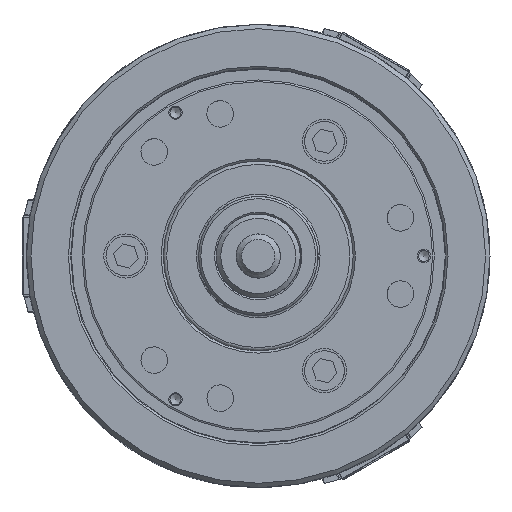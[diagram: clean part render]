
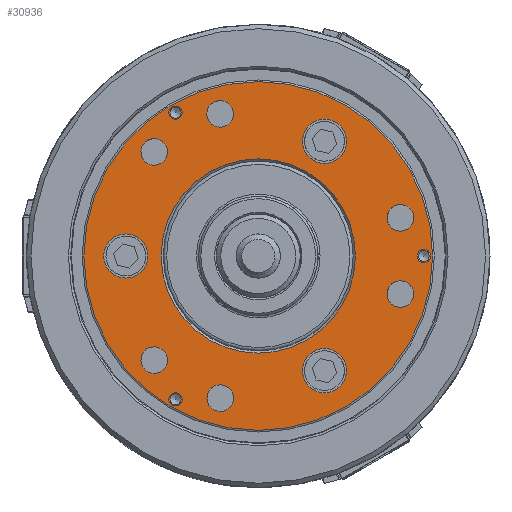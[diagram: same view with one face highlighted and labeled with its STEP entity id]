
A CAD part, left-side view. The second image highlights one B-rep face of the part: STEP entity #30936.
In plain terms, the highlighted planar face has unit normal (-1, 0, 0).
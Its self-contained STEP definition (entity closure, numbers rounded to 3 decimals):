
#410 = EDGE_LOOP ( 'NONE', ( #17236 ) ) ;
#1022 = ORIENTED_EDGE ( 'NONE', *, *, #2902, .F. ) ;
#1106 = AXIS2_PLACEMENT_3D ( 'NONE', #41544, #8044, #22119 ) ;
#1213 = CARTESIAN_POINT ( 'NONE',  ( -80., 47.146, 47.146 ) ) ;
#2211 = DIRECTION ( 'NONE',  ( 0., 0., -1. ) ) ;
#2420 = ORIENTED_EDGE ( 'NONE', *, *, #59169, .F. ) ;
#2460 = AXIS2_PLACEMENT_3D ( 'NONE', #10557, #58827, #21653 ) ;
#2715 = VERTEX_POINT ( 'NONE', #30923 ) ;
#2755 = EDGE_LOOP ( 'NONE', ( #6028 ) ) ;
#2853 = AXIS2_PLACEMENT_3D ( 'NONE', #8497, #42215, #13369 ) ;
#2902 = EDGE_CURVE ( 'NONE', #2715, #2715, #53491, .T. ) ;
#4591 = EDGE_CURVE ( 'NONE', #12561, #12561, #22260, .T. ) ;
#4694 = FACE_BOUND ( 'NONE', #27465, .T. ) ;
#5206 = EDGE_CURVE ( 'NONE', #38937, #38937, #42546, .T. ) ;
#5879 = DIRECTION ( 'NONE',  ( 0., 0., 1. ) ) ;
#6028 = ORIENTED_EDGE ( 'NONE', *, *, #39347, .T. ) ;
#7289 = VERTEX_POINT ( 'NONE', #42303 ) ;
#7555 = CARTESIAN_POINT ( 'NONE',  ( -80., -64.403, 11.257 ) ) ;
#8044 = DIRECTION ( 'NONE',  ( -1., 0., 0. ) ) ;
#8425 = CIRCLE ( 'NONE', #2460, 10. ) ;
#8463 = FACE_BOUND ( 'NONE', #21525, .T. ) ;
#8497 = CARTESIAN_POINT ( 'NONE',  ( -80., 17.257, 64.403 ) ) ;
#8733 = VERTEX_POINT ( 'NONE', #11373 ) ;
#8815 = VERTEX_POINT ( 'NONE', #57093 ) ;
#10019 = DIRECTION ( 'NONE',  ( -1., 0., 0. ) ) ;
#10557 = CARTESIAN_POINT ( 'NONE',  ( -80., -30., -51.962 ) ) ;
#11373 = CARTESIAN_POINT ( 'NONE',  ( -80., 47.146, 41.146 ) ) ;
#11406 = CARTESIAN_POINT ( 'NONE',  ( -80., 79., 0. ) ) ;
#11605 = PLANE ( 'NONE',  #55214 ) ;
#11824 = VERTEX_POINT ( 'NONE', #44841 ) ;
#12178 = CIRCLE ( 'NONE', #56968, 79. ) ;
#12471 = AXIS2_PLACEMENT_3D ( 'NONE', #1213, #15799, #16401 ) ;
#12561 = VERTEX_POINT ( 'NONE', #16007 ) ;
#12578 = EDGE_CURVE ( 'NONE', #11824, #11824, #57504, .T. ) ;
#13015 = FACE_OUTER_BOUND ( 'NONE', #44706, .T. ) ;
#13276 = VERTEX_POINT ( 'NONE', #36819 ) ;
#13369 = DIRECTION ( 'NONE',  ( 0., 0., -1. ) ) ;
#13585 = AXIS2_PLACEMENT_3D ( 'NONE', #34529, #15371, #44205 ) ;
#14322 = ORIENTED_EDGE ( 'NONE', *, *, #5206, .F. ) ;
#14415 = AXIS2_PLACEMENT_3D ( 'NONE', #53431, #10019, #43713 ) ;
#14565 = ORIENTED_EDGE ( 'NONE', *, *, #50056, .T. ) ;
#14798 = VERTEX_POINT ( 'NONE', #7555 ) ;
#14835 = EDGE_LOOP ( 'NONE', ( #17020 ) ) ;
#15038 = CIRCLE ( 'NONE', #62429, 6. ) ;
#15371 = DIRECTION ( 'NONE',  ( -1., 0., 0. ) ) ;
#15512 = VERTEX_POINT ( 'NONE', #28157 ) ;
#15799 = DIRECTION ( 'NONE',  ( 1., 0., 0. ) ) ;
#16007 = CARTESIAN_POINT ( 'NONE',  ( -80., -75., 3. ) ) ;
#16205 = EDGE_CURVE ( 'NONE', #8733, #8733, #36024, .T. ) ;
#16401 = DIRECTION ( 'NONE',  ( 0., 0., -1. ) ) ;
#17020 = ORIENTED_EDGE ( 'NONE', *, *, #4591, .F. ) ;
#17236 = ORIENTED_EDGE ( 'NONE', *, *, #34273, .T. ) ;
#17291 = AXIS2_PLACEMENT_3D ( 'NONE', #45202, #40764, #2211 ) ;
#18286 = AXIS2_PLACEMENT_3D ( 'NONE', #58505, #39068, #54029 ) ;
#18322 = FACE_BOUND ( 'NONE', #2755, .T. ) ;
#18607 = VERTEX_POINT ( 'NONE', #42096 ) ;
#18883 = AXIS2_PLACEMENT_3D ( 'NONE', #37192, #56651, #22873 ) ;
#19057 = FACE_BOUND ( 'NONE', #58098, .T. ) ;
#19462 = ORIENTED_EDGE ( 'NONE', *, *, #61470, .T. ) ;
#20845 = CARTESIAN_POINT ( 'NONE',  ( -80., 0., 0. ) ) ;
#21311 = FACE_BOUND ( 'NONE', #39821, .T. ) ;
#21478 = ORIENTED_EDGE ( 'NONE', *, *, #16205, .T. ) ;
#21510 = VERTEX_POINT ( 'NONE', #60904 ) ;
#21525 = EDGE_LOOP ( 'NONE', ( #52545 ) ) ;
#21653 = DIRECTION ( 'NONE',  ( 0., 0.866, -0.5 ) ) ;
#21668 = DIRECTION ( 'NONE',  ( -1., 0., 0. ) ) ;
#22024 = FACE_BOUND ( 'NONE', #46609, .T. ) ;
#22119 = DIRECTION ( 'NONE',  ( 0., 0., 1. ) ) ;
#22260 = CIRCLE ( 'NONE', #13585, 3. ) ;
#22873 = DIRECTION ( 'NONE',  ( 0., 0., -1. ) ) ;
#23444 = CIRCLE ( 'NONE', #54483, 6. ) ;
#23722 = ORIENTED_EDGE ( 'NONE', *, *, #12578, .F. ) ;
#25354 = CIRCLE ( 'NONE', #17291, 6. ) ;
#25777 = FACE_BOUND ( 'NONE', #58683, .T. ) ;
#25835 = FACE_BOUND ( 'NONE', #410, .T. ) ;
#25856 = CARTESIAN_POINT ( 'NONE',  ( -80., 37.5, -61.952 ) ) ;
#26646 = CIRCLE ( 'NONE', #2853, 6. ) ;
#27465 = EDGE_LOOP ( 'NONE', ( #2420 ) ) ;
#27810 = DIRECTION ( 'NONE',  ( 0., 0., -1. ) ) ;
#28157 = CARTESIAN_POINT ( 'NONE',  ( -80., 0., 79. ) ) ;
#28212 = DIRECTION ( 'NONE',  ( 1., 0., 0. ) ) ;
#29386 = DIRECTION ( 'NONE',  ( 0., 0., 1. ) ) ;
#29617 = CARTESIAN_POINT ( 'NONE',  ( -80., 17.257, -64.403 ) ) ;
#29939 = CIRCLE ( 'NONE', #1106, 44. ) ;
#30436 = DIRECTION ( 'NONE',  ( 1., 0., 0. ) ) ;
#30923 = CARTESIAN_POINT ( 'NONE',  ( -80., 37.5, 67.952 ) ) ;
#30935 = CARTESIAN_POINT ( 'NONE',  ( -80., 37.5, 64.952 ) ) ;
#30936 = ADVANCED_FACE ( 'NONE', ( #25835, #21311, #58306, #18322, #54464, #25777, #61286, #4694, #40109, #55999, #19057, #22024, #8463, #13015 ), #11605, .F. ) ;
#33811 = DIRECTION ( 'NONE',  ( -1., 0., 0. ) ) ;
#34273 = EDGE_CURVE ( 'NONE', #21510, #21510, #26646, .T. ) ;
#34529 = CARTESIAN_POINT ( 'NONE',  ( -80., -75., 0. ) ) ;
#34701 = DIRECTION ( 'NONE',  ( 0., 0., -1. ) ) ;
#34759 = DIRECTION ( 'NONE',  ( -1., 0., 0. ) ) ;
#35815 = DIRECTION ( 'NONE',  ( 1., 0., 0. ) ) ;
#35936 = VERTEX_POINT ( 'NONE', #42508 ) ;
#36024 = CIRCLE ( 'NONE', #12471, 6. ) ;
#36819 = CARTESIAN_POINT ( 'NONE',  ( -80., 0., 44. ) ) ;
#36884 = AXIS2_PLACEMENT_3D ( 'NONE', #43715, #33811, #29386 ) ;
#37192 = CARTESIAN_POINT ( 'NONE',  ( -80., -64.403, 17.257 ) ) ;
#38937 = VERTEX_POINT ( 'NONE', #25856 ) ;
#39068 = DIRECTION ( 'NONE',  ( -1., 0., 0. ) ) ;
#39347 = EDGE_CURVE ( 'NONE', #14798, #14798, #61808, .T. ) ;
#39821 = EDGE_LOOP ( 'NONE', ( #21478 ) ) ;
#40109 = FACE_BOUND ( 'NONE', #55078, .T. ) ;
#40441 = EDGE_CURVE ( 'NONE', #13276, #13276, #29939, .T. ) ;
#40764 = DIRECTION ( 'NONE',  ( 1., 0., 0. ) ) ;
#41544 = CARTESIAN_POINT ( 'NONE',  ( -80., 0., 0. ) ) ;
#42096 = CARTESIAN_POINT ( 'NONE',  ( -80., -21.34, -56.962 ) ) ;
#42215 = DIRECTION ( 'NONE',  ( 1., 0., 0. ) ) ;
#42303 = CARTESIAN_POINT ( 'NONE',  ( -80., -64.403, -23.257 ) ) ;
#42508 = CARTESIAN_POINT ( 'NONE',  ( -80., -38.66, 46.962 ) ) ;
#42546 = CIRCLE ( 'NONE', #14415, 3. ) ;
#42718 = CARTESIAN_POINT ( 'NONE',  ( -80., 17.257, -70.403 ) ) ;
#43713 = DIRECTION ( 'NONE',  ( 0., 0., 1. ) ) ;
#43715 = CARTESIAN_POINT ( 'NONE',  ( -80., 60., 0. ) ) ;
#44205 = DIRECTION ( 'NONE',  ( 0., 0., 1. ) ) ;
#44706 = EDGE_LOOP ( 'NONE', ( #51048 ) ) ;
#44841 = CARTESIAN_POINT ( 'NONE',  ( -80., 60., 10. ) ) ;
#45069 = DIRECTION ( 'NONE',  ( 0., 0., 1. ) ) ;
#45202 = CARTESIAN_POINT ( 'NONE',  ( -80., 47.146, -47.146 ) ) ;
#45302 = DIRECTION ( 'NONE',  ( 0., 0., -1. ) ) ;
#45335 = ORIENTED_EDGE ( 'NONE', *, *, #52212, .T. ) ;
#46609 = EDGE_LOOP ( 'NONE', ( #14322 ) ) ;
#47268 = EDGE_LOOP ( 'NONE', ( #51270 ) ) ;
#48322 = EDGE_LOOP ( 'NONE', ( #19462 ) ) ;
#50056 = EDGE_CURVE ( 'NONE', #8815, #8815, #25354, .T. ) ;
#51048 = ORIENTED_EDGE ( 'NONE', *, *, #57345, .T. ) ;
#51270 = ORIENTED_EDGE ( 'NONE', *, *, #57421, .F. ) ;
#51863 = AXIS2_PLACEMENT_3D ( 'NONE', #30935, #21668, #45069 ) ;
#52212 = EDGE_CURVE ( 'NONE', #7289, #7289, #23444, .T. ) ;
#52249 = CARTESIAN_POINT ( 'NONE',  ( -80., -64.403, -17.257 ) ) ;
#52545 = ORIENTED_EDGE ( 'NONE', *, *, #40441, .F. ) ;
#53431 = CARTESIAN_POINT ( 'NONE',  ( -80., 37.5, -64.952 ) ) ;
#53491 = CIRCLE ( 'NONE', #51863, 3. ) ;
#54029 = DIRECTION ( 'NONE',  ( 0., -0.866, -0.5 ) ) ;
#54464 = FACE_BOUND ( 'NONE', #54493, .T. ) ;
#54483 = AXIS2_PLACEMENT_3D ( 'NONE', #52249, #28212, #27810 ) ;
#54493 = EDGE_LOOP ( 'NONE', ( #14565 ) ) ;
#55078 = EDGE_LOOP ( 'NONE', ( #1022 ) ) ;
#55214 = AXIS2_PLACEMENT_3D ( 'NONE', #11406, #35815, #45302 ) ;
#55999 = FACE_BOUND ( 'NONE', #14835, .T. ) ;
#56651 = DIRECTION ( 'NONE',  ( 1., 0., 0. ) ) ;
#56968 = AXIS2_PLACEMENT_3D ( 'NONE', #20845, #34759, #5879 ) ;
#57093 = CARTESIAN_POINT ( 'NONE',  ( -80., 47.146, -53.146 ) ) ;
#57345 = EDGE_CURVE ( 'NONE', #15512, #15512, #12178, .T. ) ;
#57421 = EDGE_CURVE ( 'NONE', #18607, #18607, #8425, .T. ) ;
#57504 = CIRCLE ( 'NONE', #36884, 10. ) ;
#58098 = EDGE_LOOP ( 'NONE', ( #23722 ) ) ;
#58306 = FACE_BOUND ( 'NONE', #48322, .T. ) ;
#58505 = CARTESIAN_POINT ( 'NONE',  ( -80., -30., 51.962 ) ) ;
#58683 = EDGE_LOOP ( 'NONE', ( #45335 ) ) ;
#58827 = DIRECTION ( 'NONE',  ( -1., 0., 0. ) ) ;
#59169 = EDGE_CURVE ( 'NONE', #35936, #35936, #60580, .T. ) ;
#60580 = CIRCLE ( 'NONE', #18286, 10. ) ;
#60848 = VERTEX_POINT ( 'NONE', #42718 ) ;
#60904 = CARTESIAN_POINT ( 'NONE',  ( -80., 17.257, 58.403 ) ) ;
#61286 = FACE_BOUND ( 'NONE', #47268, .T. ) ;
#61470 = EDGE_CURVE ( 'NONE', #60848, #60848, #15038, .T. ) ;
#61808 = CIRCLE ( 'NONE', #18883, 6. ) ;
#62429 = AXIS2_PLACEMENT_3D ( 'NONE', #29617, #30436, #34701 ) ;
